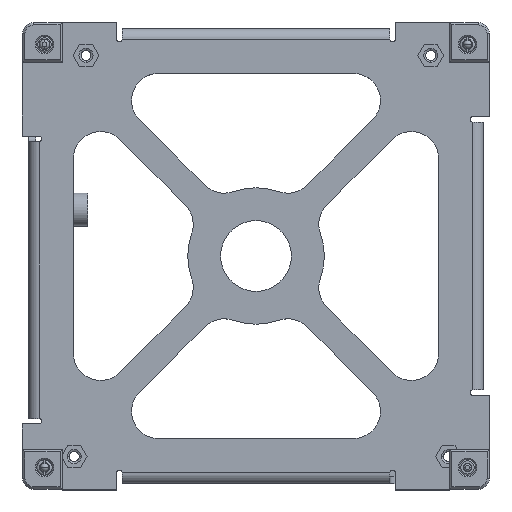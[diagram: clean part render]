
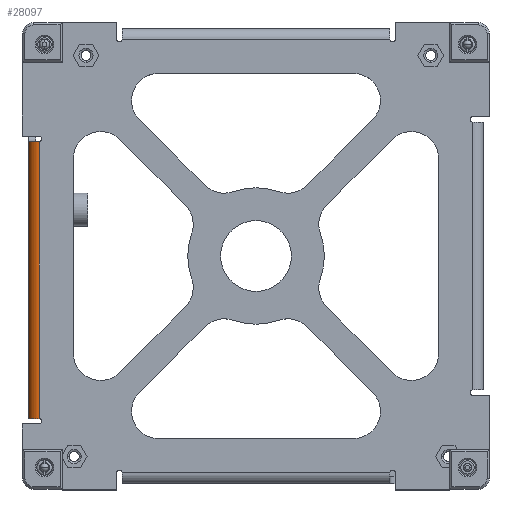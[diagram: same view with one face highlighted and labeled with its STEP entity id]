
A CAD part, top view. The second image highlights one B-rep face of the part: STEP entity #28097.
In plain terms, the highlighted cylindrical face has radius 2.286 mm (diameter 4.572 mm), a partial arc.
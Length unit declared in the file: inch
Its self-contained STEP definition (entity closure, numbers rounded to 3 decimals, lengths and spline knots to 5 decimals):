
#1017 = ORIENTED_EDGE ( 'NONE', *, *, #16839, .F. ) ;
#1968 = ORIENTED_EDGE ( 'NONE', *, *, #50298, .T. ) ;
#3558 = AXIS2_PLACEMENT_3D ( 'NONE', #30401, #3677, #53273 ) ;
#3677 = DIRECTION ( 'NONE',  ( 0., 1., 0. ) ) ;
#6524 = CARTESIAN_POINT ( 'NONE',  ( -1.91369, 0.9625, -0.09 ) ) ;
#7067 = VERTEX_POINT ( 'NONE', #6524 ) ;
#9361 = LINE ( 'NONE', #15058, #18577 ) ;
#14433 = VECTOR ( 'NONE', #36670, 39.37008 ) ;
#15030 = AXIS2_PLACEMENT_3D ( 'NONE', #44672, #17725, #49193 ) ;
#15058 = CARTESIAN_POINT ( 'NONE',  ( -1.91369, -1.36732, -0.09 ) ) ;
#16031 = VERTEX_POINT ( 'NONE', #56678 ) ;
#16834 = DIRECTION ( 'NONE',  ( 0., 1., 0. ) ) ;
#16839 = EDGE_CURVE ( 'NONE', #16031, #53070, #27764, .T. ) ;
#17725 = DIRECTION ( 'NONE',  ( 0., -1., 0. ) ) ;
#18044 = AXIS2_PLACEMENT_3D ( 'NONE', #43775, #16834, #48311 ) ;
#18446 = VERTEX_POINT ( 'NONE', #42619 ) ;
#18577 = VECTOR ( 'NONE', #28415, 39.37008 ) ;
#22604 = CIRCLE ( 'NONE', #18044, 0.09 ) ;
#27764 = LINE ( 'NONE', #32111, #14433 ) ;
#28097 = ADVANCED_FACE ( 'NONE', ( #49100 ), #35692, .T. ) ;
#28415 = DIRECTION ( 'NONE',  ( 0., 1., 0. ) ) ;
#29951 = CARTESIAN_POINT ( 'NONE',  ( -1.82369, -1.36732, 0. ) ) ;
#30401 = CARTESIAN_POINT ( 'NONE',  ( -1.82369, -7.98868, -0.09 ) ) ;
#32111 = CARTESIAN_POINT ( 'NONE',  ( -1.82369, -1.36732, 0. ) ) ;
#35692 = CYLINDRICAL_SURFACE ( 'NONE', #3558, 0.09 ) ;
#36670 = DIRECTION ( 'NONE',  ( 0., -1., 0. ) ) ;
#40494 = EDGE_CURVE ( 'NONE', #16031, #7067, #43708, .T. ) ;
#41903 = ORIENTED_EDGE ( 'NONE', *, *, #40494, .T. ) ;
#42619 = CARTESIAN_POINT ( 'NONE',  ( -1.91369, -1.36732, -0.09 ) ) ;
#43708 = CIRCLE ( 'NONE', #15030, 0.09 ) ;
#43775 = CARTESIAN_POINT ( 'NONE',  ( -1.82369, -1.36732, -0.09 ) ) ;
#44509 = ORIENTED_EDGE ( 'NONE', *, *, #58228, .F. ) ;
#44672 = CARTESIAN_POINT ( 'NONE',  ( -1.82369, 0.9625, -0.09 ) ) ;
#45253 = EDGE_LOOP ( 'NONE', ( #1017, #41903, #44509, #1968 ) ) ;
#48311 = DIRECTION ( 'NONE',  ( -1., 0., 0. ) ) ;
#49100 = FACE_OUTER_BOUND ( 'NONE', #45253, .T. ) ;
#49193 = DIRECTION ( 'NONE',  ( -1., 0., 0. ) ) ;
#50298 = EDGE_CURVE ( 'NONE', #18446, #53070, #22604, .T. ) ;
#53070 = VERTEX_POINT ( 'NONE', #29951 ) ;
#53273 = DIRECTION ( 'NONE',  ( -1., 0., 0. ) ) ;
#56678 = CARTESIAN_POINT ( 'NONE',  ( -1.82369, 0.9625, 0. ) ) ;
#58228 = EDGE_CURVE ( 'NONE', #18446, #7067, #9361, .T. ) ;
